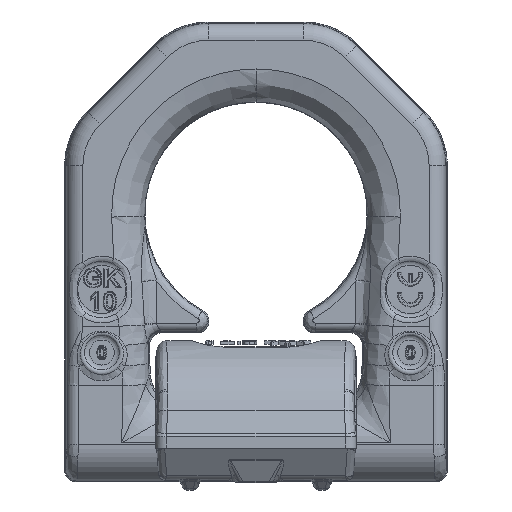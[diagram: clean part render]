
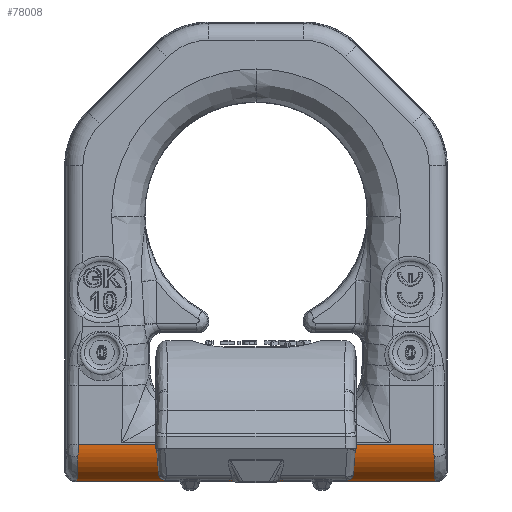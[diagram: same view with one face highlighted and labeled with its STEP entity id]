
A CAD part, left-side view. The second image highlights one B-rep face of the part: STEP entity #78008.
In plain terms, the highlighted cylindrical face has radius 11.5 mm (diameter 23 mm), a partial arc.
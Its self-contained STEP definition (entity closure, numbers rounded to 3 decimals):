
#69382=CARTESIAN_POINT('',(-3.407,-53.976,-12.025)
);
#69383=VERTEX_POINT('Vertex1593',#69382);
#71842=CARTESIAN_POINT('',(-11.5,-53.619,-1.041));
#71843=VERTEX_POINT('Vertex1605',#71842);
#71874=CARTESIAN_POINT('',(-10.894,-53.703,-4.725
));
#71875=VERTEX_POINT('Vertex1607',#71874);
#71876=CARTESIAN_POINT('',(-11.5,-53.619,-1.041));
#71877=CARTESIAN_POINT('',(-11.5,-53.619,-1.201));
#71878=CARTESIAN_POINT('',(-11.497,-53.62,-1.361
));
#71879=CARTESIAN_POINT('',(-11.479,-53.624,
-1.776));
#71880=CARTESIAN_POINT('',(-11.46,-53.629,
-2.032));
#71881=CARTESIAN_POINT('',(-11.388,-53.645,
-2.696));
#71882=CARTESIAN_POINT('',(-11.321,-53.658,
-3.103));
#71883=CARTESIAN_POINT('',(-11.143,-53.685,-3.917
));
#71884=CARTESIAN_POINT('',(-11.029,-53.698,
-4.326));
#71885=CARTESIAN_POINT('',(-10.894,-53.703,-4.725
));
#71886=B_SPLINE_CURVE_WITH_KNOTS('nurbsCrv2541',3,(#71876,#71877,#71878,#71879,
#71880,#71881,#71882,#71883,#71884,#71885),.UNSPECIFIED.,.F.,.F.,(4,2,2,2,4),(
-2.598,-2.265,-1.732,-0.879,0.),
.UNSPECIFIED.);
#71887=EDGE_CURVE('Edge2541',#71843,#71875,#71886,.T.);
#72015=CARTESIAN_POINT('',(0.,-54.1,
-1.041));
#72016=DIRECTION('',(-0.036,-0.999,
0.));
#72017=DIRECTION('',(-0.999,0.036,
0.));
#72018=AXIS2_PLACEMENT_3D('',#72015,#72016,#72017);
#72019=ELLIPSE('nurbsCrv2545',#72018,11.508,11.5);
#72020=EDGE_CURVE('Edge2545',#71875,#69383,#72019,.T.);
#75303=CARTESIAN_POINT('',(-3.407,53.976,-12.025)
);
#75304=VERTEX_POINT('Vertex1656',#75303);
#75305=CARTESIAN_POINT('',(-3.407,0.,-12.025));
#75306=DIRECTION('',(0.,1.,0.));
#75307=VECTOR('',#75306,1.);
#75308=LINE('nurbsCrv2625',#75305,#75307);
#75309=EDGE_CURVE('Edge2625',#69383,#75304,#75308,.T.);
#77949=CARTESIAN_POINT('',(-11.5,53.619,-1.041));
#77950=VERTEX_POINT('Vertex1677',#77949);
#77957=CARTESIAN_POINT('',(-11.5,0.,-1.041));
#77958=DIRECTION('',(0.,-1.,0.));
#77959=VECTOR('',#77958,1.);
#77960=LINE('nurbsCrv2676',#77957,#77959);
#77961=EDGE_CURVE('Edge2676',#77950,#71843,#77960,.T.);
#77975=ORIENTED_EDGE('Edgeuse5263',*,*,#75309,.F.);
#77976=ORIENTED_EDGE('Edgeuse5264',*,*,#72020,.F.);
#77977=ORIENTED_EDGE('Edgeuse5265',*,*,#71887,.F.);
#77978=ORIENTED_EDGE('Edgeuse5266',*,*,#77961,.F.);
#77979=CARTESIAN_POINT('',(-10.894,53.703,-4.725)
);
#77980=VERTEX_POINT('Vertex1678',#77979);
#77981=CARTESIAN_POINT('',(-11.5,53.619,-1.041));
#77982=CARTESIAN_POINT('',(-11.5,53.619,-1.201));
#77983=CARTESIAN_POINT('',(-11.497,53.62,-1.361)
);
#77984=CARTESIAN_POINT('',(-11.479,53.624,-1.776
));
#77985=CARTESIAN_POINT('',(-11.46,53.629,-2.032
));
#77986=CARTESIAN_POINT('',(-11.388,53.645,-2.696
));
#77987=CARTESIAN_POINT('',(-11.321,53.658,-3.103
));
#77988=CARTESIAN_POINT('',(-11.143,53.685,-3.917)
);
#77989=CARTESIAN_POINT('',(-11.029,53.698,-4.326
));
#77990=CARTESIAN_POINT('',(-10.894,53.703,-4.725)
);
#77991=B_SPLINE_CURVE_WITH_KNOTS('nurbsCrv2677',3,(#77981,#77982,#77983,#77984,
#77985,#77986,#77987,#77988,#77989,#77990),.UNSPECIFIED.,.F.,.F.,(4,2,2,2,4),(
-2.598,-2.265,-1.732,-0.879,0.),
.UNSPECIFIED.);
#77992=EDGE_CURVE('Edge2677',#77950,#77980,#77991,.T.);
#77993=ORIENTED_EDGE('Edgeuse5267',*,*,#77992,.T.);
#77994=CARTESIAN_POINT('',(0.,54.1,
-1.041));
#77995=DIRECTION('',(0.036,-0.999,
0.));
#77996=DIRECTION('',(-0.999,-0.036,
0.));
#77997=AXIS2_PLACEMENT_3D('',#77994,#77995,#77996);
#77998=ELLIPSE('nurbsCrv2678',#77997,11.508,11.5);
#77999=EDGE_CURVE('Edge2678',#77980,#75304,#77998,.T.);
#78000=ORIENTED_EDGE('Edgeuse5268',*,*,#77999,.T.);
#78001=EDGE_LOOP('',(#77975,#77976,#77977,#77978,#77993,#78000));
#78002=FACE_OUTER_BOUND('',#78001,.T.);
#78003=CARTESIAN_POINT('',(0.,59.373,
-1.041));
#78004=DIRECTION('',(0.,-1.,0.));
#78005=DIRECTION('',(0.805,0.,0.593
));
#78006=AXIS2_PLACEMENT_3D('',#78003,#78004,#78005);
#78007=CYLINDRICAL_SURFACE('nurbsSrf1040',#78006,11.5);
#78008=ADVANCED_FACE('Face1040',(#78002),#78007,.T.);
